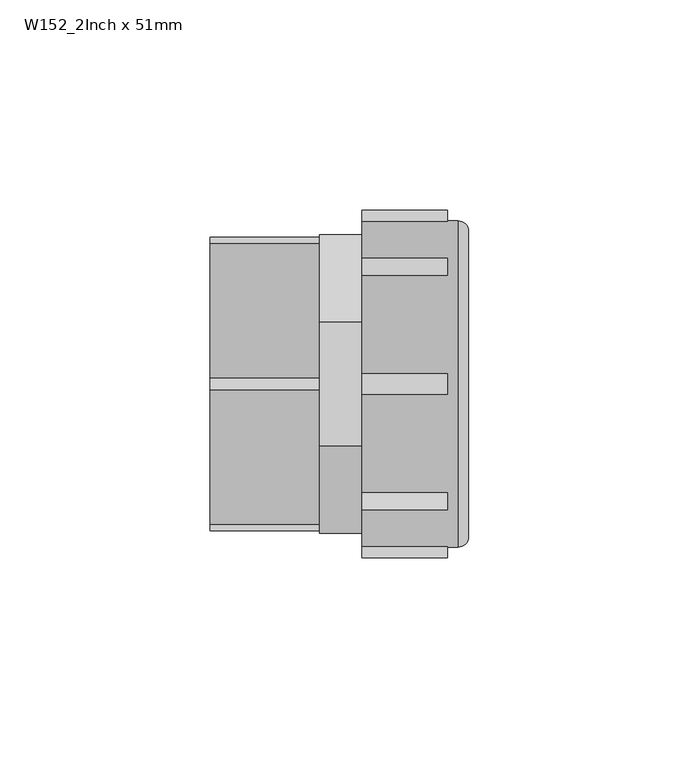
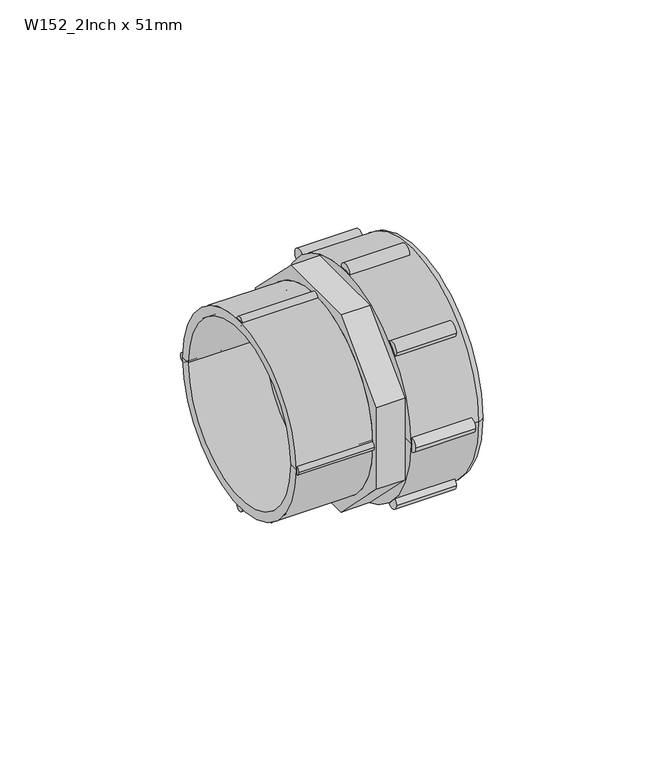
"""IFC4 building model written with IfcOpenShell, lengths in millimetres: pipe fitting geometry, Durapipe_PipeFitting_VulcatheneMechanical_FIToPipeCoupler_W15 : W152_2Inch x 51mm."""

from ifc_helpers import new_model, si_unit, point, frame, frame_2d, origin, place, context, project, spatial, polyline, circle_curve, ellipse_curve, trimmed, segment, composite_curve, outline, extrude, source, transform, mapped, element, save
from ifc_brep_helpers import plane_surface, cylinder_surface, revolved_surface, advanced_brep


def w152_2inch_x_51mm_c30cc51f(model_context):
    return source(origin(), model_context, "Body", "SolidModel", [
        advanced_brep(
        [(26.85, 22.839549, -22.839549), (26.85, 21.2839141, -21.2839141), (26.85, -21.2839141, 21.2839141), (26.85, -22.839549, 22.839549), (21.25, 22.3445743, -22.3445743), (21.25, -22.3445743, 22.3445743), (19.85, 21.9203102, -21.9203102), (21.25, 21.9203102, -21.9203102), (21.25, -21.9203102, 21.9203102), (19.85, -21.9203102, 21.9203102), (19.85, -20.9303607, 20.9303607), (19.85, 20.9303607, -20.9303607), (22.15, -20.9303607, 20.9303607), (22.15, 20.9303607, -20.9303607), (22.15, -20.647518, 20.647518), (22.15, 20.647518, -20.647518), (24.35, 21.2839141, -21.2839141), (24.35, 20.647518, -20.647518), (24.35, -20.647518, 20.647518), (24.35, -21.2839141, 21.2839141)],
        [
            (0, 1),
            (1, 2, circle_curve(frame((26.85, 0.0, 0.0), z_axis=(-1.0, 0.0, 0.0), x_axis=(0.0, -0.7071067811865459, 0.7071067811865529)), 30.1)),
            (2, 3),
            (3, 0, circle_curve(frame((26.85, 0.0, 0.0), z_axis=(1.0, 0.0, 0.0), x_axis=(0.0, -0.7071067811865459, 0.7071067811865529)), 32.3)),
            (2, 1, circle_curve(frame((26.85, 0.0, 0.0), z_axis=(-1.0, 0.0, 0.0), x_axis=(0.0, -0.7071067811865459, 0.7071067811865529)), 30.1)),
            (0, 3, circle_curve(frame((26.85, 0.0, 0.0), z_axis=(1.0, 0.0, 0.0), x_axis=(0.0, -0.7071067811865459, 0.7071067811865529)), 32.3)),
            (4, 0),
            (3, 5),
            (5, 4, circle_curve(frame((21.25, 0.0, 0.0), z_axis=(1.0, 0.0, 0.0), x_axis=(0.0, -0.7071067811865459, 0.7071067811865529)), 31.6)),
            (4, 5, circle_curve(frame((21.25, 0.0, 0.0), z_axis=(1.0, 0.0, 0.0), x_axis=(0.0, -0.7071067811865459, 0.7071067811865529)), 31.6)),
            (6, 7),
            (7, 8, circle_curve(frame((21.25, 0.0, 0.0), z_axis=(-1.0, 0.0, 0.0), x_axis=(0.0, -0.7071067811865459, 0.7071067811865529)), 31.0)),
            (8, 9),
            (9, 6, circle_curve(frame((19.85, 0.0, 0.0), z_axis=(1.0, 0.0, 0.0), x_axis=(0.0, -0.7071067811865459, 0.7071067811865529)), 31.0)),
            (8, 7, circle_curve(frame((21.25, 0.0, 0.0), z_axis=(-1.0, 0.0, 0.0), x_axis=(0.0, -0.7071067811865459, 0.7071067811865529)), 31.0)),
            (6, 9, circle_curve(frame((19.85, 0.0, 0.0), z_axis=(1.0, 0.0, 0.0), x_axis=(0.0, -0.7071067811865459, 0.7071067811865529)), 31.0)),
            (9, 10),
            (10, 11, circle_curve(frame((19.85, 0.0, 0.0), z_axis=(1.0, 0.0, 0.0), x_axis=(0.0, -0.7071067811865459, 0.7071067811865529)), 29.6)),
            (11, 6),
            (11, 10, circle_curve(frame((19.85, 0.0, 0.0), z_axis=(1.0, 0.0, 0.0), x_axis=(0.0, -0.7071067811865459, 0.7071067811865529)), 29.6)),
            (10, 12),
            (12, 13, circle_curve(frame((22.15, 0.0, 0.0), z_axis=(1.0, 0.0, 0.0), x_axis=(0.0, -0.7071067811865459, 0.7071067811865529)), 29.6)),
            (13, 11),
            (13, 12, circle_curve(frame((22.15, 0.0, 0.0), z_axis=(1.0, 0.0, 0.0), x_axis=(0.0, -0.7071067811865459, 0.7071067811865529)), 29.6)),
            (12, 14),
            (14, 15, circle_curve(frame((22.15, 0.0, 0.0), z_axis=(1.0, 0.0, 0.0), x_axis=(0.0, -0.7071067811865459, 0.7071067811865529)), 29.2)),
            (15, 13),
            (15, 14, circle_curve(frame((22.15, 0.0, 0.0), z_axis=(1.0, 0.0, 0.0), x_axis=(0.0, -0.7071067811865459, 0.7071067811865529)), 29.2)),
            (16, 17),
            (17, 18, circle_curve(frame((24.35, 0.0, 0.0), z_axis=(-1.0, 0.0, 0.0), x_axis=(0.0, -0.7071067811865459, 0.7071067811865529)), 29.2)),
            (18, 19),
            (19, 16, circle_curve(frame((24.35, 0.0, 0.0), z_axis=(1.0, 0.0, 0.0), x_axis=(0.0, -0.7071067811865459, 0.7071067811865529)), 30.1)),
            (18, 17, circle_curve(frame((24.35, 0.0, 0.0), z_axis=(-1.0, 0.0, 0.0), x_axis=(0.0, -0.7071067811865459, 0.7071067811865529)), 29.2)),
            (16, 19, circle_curve(frame((24.35, 0.0, 0.0), z_axis=(1.0, 0.0, 0.0), x_axis=(0.0, -0.7071067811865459, 0.7071067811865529)), 30.1)),
            (1, 16),
            (19, 2),
            (14, 18),
            (17, 15),
            (5, 8),
            (7, 4),
        ],
        [
            plane_surface(frame((26.85, 0.0, 0.0), z_axis=(1.0, 0.0, 0.0), x_axis=(0.0, -0.707106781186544, 0.707106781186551))),
            revolved_surface(polyline([(26.85, -22.839549, 22.839549), (21.25, -22.3445743, 22.3445743)]), (31.85, 0.0, 0.0), (-1.0000000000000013, 0.0, 0.0)),
            cylinder_surface(frame((17.7793443, 0.0, 0.0), z_axis=(-1.0000000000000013, 0.0, 0.0), x_axis=(0.0, -0.7071067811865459, 0.7071067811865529)), 31.0),
            plane_surface(frame((19.85, 0.0, 0.0), z_axis=(-1.0, 0.0, 0.0), x_axis=(0.0, -0.707106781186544, 0.707106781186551))),
            revolved_surface(polyline([(19.85000000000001, -20.93036072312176, 20.930360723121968), (22.150000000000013, -20.93036072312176, 20.930360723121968)]), (16.357009, 0.0, 0.0), (-1.0000000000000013, 0.0, 0.0)),
            plane_surface(frame((22.15, 0.0, 0.0), z_axis=(-1.0, 0.0, 0.0), x_axis=(0.0, -0.707106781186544, 0.707106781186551))),
            plane_surface(frame((24.35, 0.0, 0.0), z_axis=(1.0, 0.0, 0.0), x_axis=(0.0, -0.707106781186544, 0.707106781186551))),
            revolved_surface(polyline([(24.34999999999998, -21.28391411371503, 21.283914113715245), (26.849999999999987, -21.28391411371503, 21.283914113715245)]), (31.85, 0.0, 0.0), (-1.0000000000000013, 0.0, 0.0)),
            revolved_surface(polyline([(22.149999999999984, -20.64751801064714, 20.647518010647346), (24.34999999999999, -20.64751801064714, 20.647518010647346)]), (28.4161924, 0.0, 0.0), (-1.0000000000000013, 0.0, 0.0)),
            plane_surface(frame((21.25, 0.0, 0.0), z_axis=(-1.0, 0.0, 0.0), x_axis=(0.0, -0.707106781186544, 0.707106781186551))),
        ],
        [
            (0, [[1, 2, 3, 4]]),
            (0, [[5, -1, 6, -3]]),
            (1, [[7, -4, 8, 9]]),
            (1, [[-8, -6, -7, 10]]),
            (2, [[11, 12, 13, 14]]),
            (2, [[15, -11, 16, -13]]),
            (3, [[17, 18, 19, -14]]),
            (3, [[-19, 20, -17, -16]]),
            (4, [[-18, 21, 22, 23]]),
            (4, [[24, -21, -20, -23]]),
            (5, [[25, 26, 27, -22]]),
            (5, [[-27, 28, -25, -24]]),
            (6, [[29, 30, 31, 32]]),
            (6, [[-31, 33, -29, 34]]),
            (7, [[35, -32, 36, -2]]),
            (7, [[-36, -34, -35, -5]]),
            (8, [[-26, 37, -30, 38]]),
            (8, [[-33, -37, -28, -38]]),
            (9, [[39, -12, 40, -9]]),
            (9, [[-40, -15, -39, -10]]),
        ],
    ),
        advanced_brep(
        [(5.35, 38.8, 0.0), (28.25, 38.8, 0.0), (28.25, -38.8, 0.0), (5.35, -38.8, 0.0), (5.35, 33.0, 0.0), (5.35, -33.0, 0.0), (30.75, 36.3, 0.0), (30.75, 31.0, 0.0), (30.75, -31.0, 0.0), (30.75, -36.3, 0.0), (26.85, 33.0, 0.0), (26.85, -33.0, 0.0), (26.85, 31.0, 0.0), (26.85, -31.0, 0.0)],
        [
            (0, 1),
            (1, 2, circle_curve(frame((28.25, 0.0, 0.0), z_axis=(-1.0, 0.0, 0.0), x_axis=(0.0, -1.0000000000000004, 0.0)), 38.8)),
            (2, 3),
            (3, 0, circle_curve(frame((5.35, 0.0, 0.0), z_axis=(1.0, 0.0, 0.0), x_axis=(0.0, -1.0000000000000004, 0.0)), 38.8)),
            (2, 1, circle_curve(frame((28.25, 0.0, 0.0), z_axis=(-1.0, 0.0, 0.0), x_axis=(0.0, -1.0000000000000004, 0.0)), 38.8)),
            (0, 3, circle_curve(frame((5.35, 0.0, 0.0), z_axis=(1.0, 0.0, 0.0), x_axis=(0.0, -1.0000000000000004, 0.0)), 38.8)),
            (4, 0),
            (3, 5),
            (5, 4, circle_curve(frame((5.35, 0.0, 0.0), z_axis=(1.0, 0.0, 0.0), x_axis=(0.0, -1.0000000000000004, 0.0)), 33.0)),
            (4, 5, circle_curve(frame((5.35, 0.0, 0.0), z_axis=(1.0, 0.0, 0.0), x_axis=(0.0, -1.0000000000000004, 0.0)), 33.0)),
            (6, 7),
            (7, 8, circle_curve(frame((30.75, 0.0, 0.0), z_axis=(-1.0, 0.0, 0.0), x_axis=(0.0, -1.0000000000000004, 0.0)), 31.0)),
            (8, 9),
            (9, 6, circle_curve(frame((30.75, 0.0, 0.0), z_axis=(1.0, 0.0, 0.0), x_axis=(0.0, -1.0000000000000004, 0.0)), 36.3)),
            (8, 7, circle_curve(frame((30.75, 0.0, 0.0), z_axis=(-1.0, 0.0, 0.0), x_axis=(0.0, -1.0000000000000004, 0.0)), 31.0)),
            (6, 9, circle_curve(frame((30.75, 0.0, 0.0), z_axis=(1.0, 0.0, 0.0), x_axis=(0.0, -1.0000000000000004, 0.0)), 36.3)),
            (1, 6, circle_curve(frame((28.25, 36.3, 0.0), z_axis=(0.0, 0.0, -1.0000000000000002), x_axis=(1.0000000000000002, 0.0, 0.0)), 2.5)),
            (9, 2, circle_curve(frame((28.25, -36.3, 0.0), z_axis=(0.0, 0.0, -1.0000000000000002), x_axis=(1.0000000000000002, 0.0, 0.0)), 2.5)),
            (10, 4),
            (5, 11),
            (11, 10, circle_curve(frame((26.85, 0.0, 0.0), z_axis=(1.0, 0.0, 0.0), x_axis=(0.0, -1.0000000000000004, 0.0)), 33.0)),
            (10, 11, circle_curve(frame((26.85, 0.0, 0.0), z_axis=(1.0, 0.0, 0.0), x_axis=(0.0, -1.0000000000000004, 0.0)), 33.0)),
            (12, 10),
            (11, 13),
            (13, 12, circle_curve(frame((26.85, 0.0, 0.0), z_axis=(1.0, 0.0, 0.0), x_axis=(0.0, -1.0000000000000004, 0.0)), 31.0)),
            (12, 13, circle_curve(frame((26.85, 0.0, 0.0), z_axis=(1.0, 0.0, 0.0), x_axis=(0.0, -1.0000000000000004, 0.0)), 31.0)),
            (7, 12),
            (13, 8),
        ],
        [
            cylinder_surface(frame((1591.5518184, 0.0, 0.0), z_axis=(-1.0000000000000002, 0.0, 0.0), x_axis=(0.0, -1.0000000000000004, 0.0)), 38.8),
            plane_surface(frame((5.35, 0.0, 0.0), z_axis=(-1.0, 0.0, 0.0), x_axis=(0.0, -1.0, 0.0))),
            plane_surface(frame((30.75, 0.0, 0.0), z_axis=(1.0, 0.0, 0.0), x_axis=(0.0, -1.0, 0.0))),
            revolved_surface(trimmed(ellipse_curve(frame((28.25, -36.3, 0.0), z_axis=(0.0, 0.0, -1.0000000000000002), x_axis=(1.0000000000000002, 0.0, 0.0)), 2.5, 2.5), [point((30.75, -36.3, 0.0))], [point((28.25, -38.8, 0.0))], True, "CARTESIAN"), (1591.5518184, 0.0, 0.0), (-1.0000000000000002, 0.0, 0.0)),
            revolved_surface(polyline([(5.3499999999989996, -33.000000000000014, 0.0), (26.849999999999, -33.000000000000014, 0.0)]), (1591.5518184, 0.0, 0.0), (-1.0000000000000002, 0.0, 0.0)),
            plane_surface(frame((26.85, 0.0, 0.0), z_axis=(-1.0, 0.0, 0.0), x_axis=(0.0, -1.0, 0.0))),
            revolved_surface(polyline([(26.849999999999, -31.000000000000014, 0.0), (30.74999999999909, -31.000000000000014, 0.0)]), (1591.5518184, 0.0, 0.0), (-1.0000000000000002, 0.0, 0.0)),
        ],
        [
            (0, [[1, 2, 3, 4]]),
            (0, [[-3, 5, -1, 6]]),
            (1, [[7, -4, 8, 9]]),
            (1, [[-8, -6, -7, 10]]),
            (2, [[11, 12, 13, 14]]),
            (2, [[-13, 15, -11, 16]]),
            (3, [[17, -14, 18, -2]]),
            (3, [[-18, -16, -17, -5]]),
            (4, [[19, -9, 20, 21]]),
            (4, [[-20, -10, -19, 22]]),
            (5, [[23, -21, 24, 25]]),
            (5, [[-24, -22, -23, 26]]),
            (6, [[27, -25, 28, -12]]),
            (6, [[-28, -26, -27, -15]]),
        ],
    ),
        extrude(outline(composite_curve([segment(trimmed(circle_curve(frame_2d((0.0, 38.8)), 2.5), [point((2.5, 38.8))], [point((-2.5, 38.8))], False, "CARTESIAN"), True, "CONTINUOUS"), segment(trimmed(circle_curve(frame_2d((0.0, 38.8)), 2.5), [point((-2.5, 38.8))], [point((2.5, 38.8))], False, "CARTESIAN"), True, "CONTINUOUS")], self_intersect=False)), frame((5.35, 0.0, 0.0), z_axis=(1.0, 0.0, 0.0), x_axis=(0.0, 1.0, 0.0)), (0.0, 0.0, 1.0), 20.4),
        extrude(outline(composite_curve([segment(trimmed(circle_curve(frame_2d((-27.4357431, 27.4357431)), 2.5), [point((-24.9357431, 27.4357431))], [point((-29.9357431, 27.4357431))], False, "CARTESIAN"), True, "CONTINUOUS"), segment(trimmed(circle_curve(frame_2d((-27.4357431, 27.4357431)), 2.5), [point((-29.9357431, 27.4357431))], [point((-24.9357431, 27.4357431))], False, "CARTESIAN"), True, "CONTINUOUS")], self_intersect=False)), frame((5.35, 0.0, 0.0), z_axis=(1.0, 0.0, 0.0), x_axis=(0.0, 1.0, 0.0)), (0.0, 0.0, 1.0), 20.4),
        extrude(outline(composite_curve([segment(trimmed(circle_curve(frame_2d((-38.8, 0.0)), 2.5), [point((-36.3, 0.0))], [point((-41.3, 0.0))], False, "CARTESIAN"), True, "CONTINUOUS"), segment(trimmed(circle_curve(frame_2d((-38.8, 0.0)), 2.5), [point((-41.3, 0.0))], [point((-36.3, 0.0))], False, "CARTESIAN"), True, "CONTINUOUS")], self_intersect=False)), frame((5.35, 0.0, 0.0), z_axis=(1.0, 0.0, 0.0), x_axis=(0.0, 1.0, 0.0)), (0.0, 0.0, 1.0), 20.4),
        extrude(outline(composite_curve([segment(trimmed(circle_curve(frame_2d((-27.4357431, -27.4357431)), 2.5), [point((-24.9357431, -27.4357431))], [point((-29.9357431, -27.4357431))], False, "CARTESIAN"), True, "CONTINUOUS"), segment(trimmed(circle_curve(frame_2d((-27.4357431, -27.4357431)), 2.5), [point((-29.9357431, -27.4357431))], [point((-24.9357431, -27.4357431))], False, "CARTESIAN"), True, "CONTINUOUS")], self_intersect=False)), frame((5.35, 0.0, 0.0), z_axis=(1.0, 0.0, 0.0), x_axis=(0.0, 1.0, 0.0)), (0.0, 0.0, 1.0), 20.4),
        extrude(outline(composite_curve([segment(trimmed(circle_curve(frame_2d((0.0, -38.8)), 2.5), [point((2.5, -38.8))], [point((-2.5, -38.8))], False, "CARTESIAN"), True, "CONTINUOUS"), segment(trimmed(circle_curve(frame_2d((0.0, -38.8)), 2.5), [point((-2.5, -38.8))], [point((2.5, -38.8))], False, "CARTESIAN"), True, "CONTINUOUS")], self_intersect=False)), frame((5.35, 0.0, 0.0), z_axis=(1.0, 0.0, 0.0), x_axis=(0.0, 1.0, 0.0)), (0.0, 0.0, 1.0), 20.4),
        extrude(outline(composite_curve([segment(trimmed(circle_curve(frame_2d((27.4357431, -27.4357431)), 2.5), [point((29.9357431, -27.4357431))], [point((24.9357431, -27.4357431))], False, "CARTESIAN"), True, "CONTINUOUS"), segment(trimmed(circle_curve(frame_2d((27.4357431, -27.4357431)), 2.5), [point((24.9357431, -27.4357431))], [point((29.9357431, -27.4357431))], False, "CARTESIAN"), True, "CONTINUOUS")], self_intersect=False)), frame((5.35, 0.0, 0.0), z_axis=(1.0, 0.0, 0.0), x_axis=(0.0, 1.0, 0.0)), (0.0, 0.0, 1.0), 20.4),
        extrude(outline(composite_curve([segment(trimmed(circle_curve(frame_2d((38.8, 0.0)), 2.5), [point((41.3, 0.0))], [point((36.3, 0.0))], False, "CARTESIAN"), True, "CONTINUOUS"), segment(trimmed(circle_curve(frame_2d((38.8, 0.0)), 2.5), [point((36.3, 0.0))], [point((41.3, 0.0))], False, "CARTESIAN"), True, "CONTINUOUS")], self_intersect=False)), frame((5.35, 0.0, 0.0), z_axis=(1.0, 0.0, 0.0), x_axis=(0.0, 1.0, 0.0)), (0.0, 0.0, 1.0), 20.4),
        extrude(outline(composite_curve([segment(trimmed(circle_curve(frame_2d((27.4357431, 27.4357431)), 2.5), [point((29.9357431, 27.4357431))], [point((24.9357431, 27.4357431))], False, "CARTESIAN"), True, "CONTINUOUS"), segment(trimmed(circle_curve(frame_2d((27.4357431, 27.4357431)), 2.5), [point((24.9357431, 27.4357431))], [point((29.9357431, 27.4357431))], False, "CARTESIAN"), True, "CONTINUOUS")], self_intersect=False)), frame((5.35, 0.0, 0.0), z_axis=(1.0, 0.0, 0.0), x_axis=(0.0, 1.0, 0.0)), (0.0, 0.0, 1.0), 20.4),
        advanced_brep(
        [(-30.75, -33.45, 0.0), (-30.75, 33.45, 0.0), (-4.75, 33.45, 0.0), (-4.75, -33.45, 0.0), (-30.75, -30.25, 0.0), (-30.75, 30.25, 0.0), (-4.75, -30.25, 0.0), (-4.75, 30.25, 0.0), (5.25, 14.7045815, 35.5), (5.25, -14.7045815, 35.5), (5.25, -35.5, 14.7045815), (5.25, -35.5, -14.7045815), (5.25, -14.7045815, -35.5), (5.25, 14.7045815, -35.5), (5.25, 35.5, -14.7045815), (5.25, 35.5, 14.7045815), (5.25, -26.2, 0.0), (5.25, 26.2, 0.0), (-4.75, -26.2, 0.0), (-4.75, 26.2, 0.0), (-4.75, 14.7045815, 35.5), (-4.75, 35.5, 14.7045815), (-4.75, 35.5, -14.7045815), (-4.75, 14.7045815, -35.5), (-4.75, -14.7045815, -35.5), (-4.75, -35.5, -14.7045815), (-4.75, -35.5, 14.7045815), (-4.75, -14.7045815, 35.5)],
        [
            (0, 1, circle_curve(frame((-30.75, 0.0, 0.0), z_axis=(1.0, 0.0, 0.0), x_axis=(0.0, 1.0, 0.0)), 33.45)),
            (1, 2),
            (2, 3, circle_curve(frame((-4.75, 0.0, 0.0), z_axis=(-1.0, 0.0, 0.0), x_axis=(0.0, 1.0, 0.0)), 33.45)),
            (3, 0),
            (1, 0, circle_curve(frame((-30.75, 0.0, 0.0), z_axis=(1.0, 0.0, 0.0), x_axis=(0.0, 1.0, 0.0)), 33.45)),
            (3, 2, circle_curve(frame((-4.75, 0.0, 0.0), z_axis=(-1.0, 0.0, 0.0), x_axis=(0.0, 1.0, 0.0)), 33.45)),
            (0, 4),
            (4, 5, circle_curve(frame((-30.75, 0.0, 0.0), z_axis=(1.0, 0.0, 0.0), x_axis=(0.0, 1.0, 0.0)), 30.25)),
            (5, 1),
            (5, 4, circle_curve(frame((-30.75, 0.0, 0.0), z_axis=(1.0, 0.0, 0.0), x_axis=(0.0, 1.0, 0.0)), 30.25)),
            (4, 6),
            (6, 7, circle_curve(frame((-4.75, 0.0, 0.0), z_axis=(1.0, 0.0, 0.0), x_axis=(0.0, 1.0, 0.0)), 30.25)),
            (7, 5),
            (7, 6, circle_curve(frame((-4.75, 0.0, 0.0), z_axis=(1.0, 0.0, 0.0), x_axis=(0.0, 1.0, 0.0)), 30.25)),
            (8, 9),
            (9, 10),
            (10, 11),
            (11, 12),
            (12, 13),
            (13, 14),
            (14, 15),
            (15, 8),
            (16, 17, circle_curve(frame((5.25, 0.0, 0.0), z_axis=(-1.0, 0.0, 0.0), x_axis=(0.0, 1.0, 0.0)), 26.2)),
            (17, 16, circle_curve(frame((5.25, 0.0, 0.0), z_axis=(-1.0, 0.0, 0.0), x_axis=(0.0, 1.0, 0.0)), 26.2)),
            (18, 19, circle_curve(frame((-4.75, 0.0, 0.0), z_axis=(1.0, 0.0, 0.0), x_axis=(0.0, 1.0, 0.0)), 26.2)),
            (19, 18, circle_curve(frame((-4.75, 0.0, 0.0), z_axis=(1.0, 0.0, 0.0), x_axis=(0.0, 1.0, 0.0)), 26.2)),
            (20, 21),
            (21, 22),
            (22, 23),
            (23, 24),
            (24, 25),
            (25, 26),
            (26, 27),
            (27, 20),
            (8, 20),
            (27, 9),
            (26, 10),
            (25, 11),
            (24, 12),
            (23, 13),
            (22, 14),
            (21, 15),
            (16, 18),
            (19, 17),
        ],
        [
            cylinder_surface(frame((-35.75, 0.0, 0.0), z_axis=(-1.0, 0.0, 0.0), x_axis=(0.0, 1.0, 0.0)), 33.45),
            plane_surface(frame((-30.75, 0.0, 0.0), z_axis=(-1.0, 0.0, 0.0), x_axis=(0.0, 1.0, 0.0))),
            revolved_surface(polyline([(-30.75, 30.25, 0.0), (-4.75, 30.25, 0.0)]), (-35.75, 0.0, 0.0), (-1.0, 0.0, 0.0)),
            plane_surface(frame((5.25, -14.7045815, 35.5), z_axis=(1.0, 0.0, 0.0), x_axis=(0.0, -1.0, 0.0))),
            plane_surface(frame((-4.75, -14.7045815, 35.5), z_axis=(-1.0, 0.0, 0.0), x_axis=(0.0, 1.0, 0.0))),
            plane_surface(frame((5.25, 14.7045815, 35.5), z_axis=(0.0, 0.0, 1.0), x_axis=(-1.0, 0.0, 0.0))),
            plane_surface(frame((5.25, -14.7045815, 35.5), z_axis=(0.0, -0.7071067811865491, 0.7071067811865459), x_axis=(-1.0, 0.0, 0.0))),
            plane_surface(frame((5.25, -35.5, 14.7045815), z_axis=(0.0, -1.0, 0.0), x_axis=(-1.0, 0.0, 0.0))),
            plane_surface(frame((5.25, -35.5, -14.7045815), z_axis=(0.0, -0.7071067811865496, -0.7071067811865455), x_axis=(-1.0, 0.0, 0.0))),
            plane_surface(frame((5.25, -14.7045815, -35.5), z_axis=(0.0, 0.0, -1.0), x_axis=(-1.0, 0.0, 0.0))),
            plane_surface(frame((5.25, 14.7045815, -35.5), z_axis=(0.0, 0.7071067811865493, -0.7071067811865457), x_axis=(-1.0, 0.0, 0.0))),
            plane_surface(frame((5.25, 35.5, -14.7045815), z_axis=(0.0, 1.0, 0.0), x_axis=(-1.0, 0.0, 0.0))),
            plane_surface(frame((5.25, 35.5, 14.7045815), z_axis=(0.0, 0.7071067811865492, 0.7071067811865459), x_axis=(-1.0, 0.0, 0.0))),
            revolved_surface(polyline([(-4.75, 26.2, 0.0), (5.25, 26.2, 0.0)]), (0.0, 0.0, 0.0), (-1.0, 0.0, 0.0)),
        ],
        [
            (0, [[1, 2, 3, 4]]),
            (0, [[-2, 5, -4, 6]]),
            (1, [[-1, 7, 8, 9]]),
            (1, [[-5, -9, 10, -7]]),
            (2, [[-8, 11, 12, 13]]),
            (2, [[-10, -13, 14, -11]]),
            (3, [[15, 16, 17, 18, 19, 20, 21, 22], [23, 24]]),
            (4, [[-12, -14], [25, 26]]),
            (4, [[27, 28, 29, 30, 31, 32, 33, 34], [-3, -6]]),
            (5, [[-15, 35, -34, 36]]),
            (6, [[-16, -36, -33, 37]]),
            (7, [[-17, -37, -32, 38]]),
            (8, [[-18, -38, -31, 39]]),
            (9, [[-19, -39, -30, 40]]),
            (10, [[-20, -40, -29, 41]]),
            (11, [[-21, -41, -28, 42]]),
            (12, [[-22, -42, -27, -35]]),
            (13, [[-23, 43, -26, 44]]),
            (13, [[-24, -44, -25, -43]]),
        ],
    ),
        extrude(outline(composite_curve([segment(trimmed(circle_curve(frame_2d((0.0, 33.4)), 1.5), [point((-1.5, 33.4))], [point((1.5, 33.4))], False, "CARTESIAN"), True, "CONTINUOUS"), segment(trimmed(circle_curve(frame_2d((0.0, 33.4)), 1.5), [point((1.5, 33.4))], [point((-1.5, 33.4))], False, "CARTESIAN"), True, "CONTINUOUS")], self_intersect=False)), frame((-30.75, 0.0, 0.0), z_axis=(1.0, 0.0, 0.0), x_axis=(0.0, 1.0, 0.0)), (0.0, 0.0, 1.0), 26.0),
        extrude(outline(composite_curve([segment(trimmed(circle_curve(frame_2d((33.4, 0.0)), 1.5), [point((31.9, 0.0))], [point((34.9, 0.0))], False, "CARTESIAN"), True, "CONTINUOUS"), segment(trimmed(circle_curve(frame_2d((33.4, 0.0)), 1.5), [point((34.9, 0.0))], [point((31.9, 0.0))], False, "CARTESIAN"), True, "CONTINUOUS")], self_intersect=False)), frame((-30.75, 0.0, 0.0), z_axis=(1.0, 0.0, 0.0), x_axis=(0.0, 1.0, 0.0)), (0.0, 0.0, 1.0), 26.0),
        extrude(outline(composite_curve([segment(trimmed(circle_curve(frame_2d((-33.4, 0.0)), 1.5), [point((-34.9, 0.0))], [point((-31.9, 0.0))], False, "CARTESIAN"), True, "CONTINUOUS"), segment(trimmed(circle_curve(frame_2d((-33.4, 0.0)), 1.5), [point((-31.9, 0.0))], [point((-34.9, 0.0))], False, "CARTESIAN"), True, "CONTINUOUS")], self_intersect=False)), frame((-30.75, 0.0, 0.0), z_axis=(1.0, 0.0, 0.0), x_axis=(0.0, 1.0, 0.0)), (0.0, 0.0, 1.0), 26.0),
        extrude(outline(composite_curve([segment(trimmed(circle_curve(frame_2d((0.0, -33.4)), 1.5), [point((-1.5, -33.4))], [point((1.5, -33.4))], False, "CARTESIAN"), True, "CONTINUOUS"), segment(trimmed(circle_curve(frame_2d((0.0, -33.4)), 1.5), [point((1.5, -33.4))], [point((-1.5, -33.4))], False, "CARTESIAN"), True, "CONTINUOUS")], self_intersect=False)), frame((-30.75, 0.0, 0.0), z_axis=(1.0, 0.0, 0.0), x_axis=(0.0, 1.0, 0.0)), (0.0, 0.0, 1.0), 26.0),
        advanced_brep(
        [(-4.75, -26.2, 0.0), (-4.75, 26.2, 0.0), (-4.75, 33.4, 0.0), (-4.75, -33.4, 0.0), (0.25, -26.2, 0.0), (0.25, 26.2, 0.0), (0.25, -30.25, 0.0), (0.25, 30.25, 0.0), (27.25, -30.25, 0.0), (27.25, 30.25, 0.0), (27.25, -33.4, 0.0), (27.25, 33.4, 0.0)],
        [
            (0, 1, circle_curve(frame((-4.75, 0.0, 0.0), z_axis=(1.0, 0.0, 0.0), x_axis=(0.0, 1.0, 0.0)), 26.2)),
            (1, 2),
            (2, 3, circle_curve(frame((-4.75, 0.0, 0.0), z_axis=(-1.0, 0.0, 0.0), x_axis=(0.0, 1.0, 0.0)), 33.4)),
            (3, 0),
            (1, 0, circle_curve(frame((-4.75, 0.0, 0.0), z_axis=(1.0, 0.0, 0.0), x_axis=(0.0, 1.0, 0.0)), 26.2)),
            (3, 2, circle_curve(frame((-4.75, 0.0, 0.0), z_axis=(-1.0, 0.0, 0.0), x_axis=(0.0, 1.0, 0.0)), 33.4)),
            (4, 5, circle_curve(frame((0.25, 0.0, 0.0), z_axis=(1.0, 0.0, 0.0), x_axis=(0.0, 1.0, 0.0)), 26.2)),
            (5, 1),
            (0, 4),
            (5, 4, circle_curve(frame((0.25, 0.0, 0.0), z_axis=(1.0, 0.0, 0.0), x_axis=(0.0, 1.0, 0.0)), 26.2)),
            (6, 7, circle_curve(frame((0.25, 0.0, 0.0), z_axis=(1.0, 0.0, 0.0), x_axis=(0.0, 1.0, 0.0)), 30.25)),
            (7, 5),
            (4, 6),
            (7, 6, circle_curve(frame((0.25, 0.0, 0.0), z_axis=(1.0, 0.0, 0.0), x_axis=(0.0, 1.0, 0.0)), 30.25)),
            (8, 9, circle_curve(frame((27.25, 0.0, 0.0), z_axis=(1.0, 0.0, 0.0), x_axis=(0.0, 1.0, 0.0)), 30.25)),
            (9, 7),
            (6, 8),
            (9, 8, circle_curve(frame((27.25, 0.0, 0.0), z_axis=(1.0, 0.0, 0.0), x_axis=(0.0, 1.0, 0.0)), 30.25)),
            (10, 11, circle_curve(frame((27.25, 0.0, 0.0), z_axis=(1.0, 0.0, 0.0), x_axis=(0.0, 1.0, 0.0)), 33.4)),
            (11, 9),
            (8, 10),
            (11, 10, circle_curve(frame((27.25, 0.0, 0.0), z_axis=(1.0, 0.0, 0.0), x_axis=(0.0, 1.0, 0.0)), 33.4)),
            (2, 11),
            (10, 3),
        ],
        [
            plane_surface(frame((-4.75, 0.0, 0.0), z_axis=(-1.0, 0.0, 0.0), x_axis=(0.0, 1.0, 0.0))),
            revolved_surface(polyline([(-4.75, 26.2, 0.0), (0.25, 26.2, 0.0)]), (32.9340423, 0.0, 0.0), (-1.0, 0.0, 0.0)),
            plane_surface(frame((0.25, 0.0, 0.0), z_axis=(1.0, 0.0, 0.0), x_axis=(0.0, 1.0, 0.0))),
            revolved_surface(polyline([(0.25, 30.25, 0.0), (27.25, 30.25, 0.0)]), (32.9340423, 0.0, 0.0), (-1.0, 0.0, 0.0)),
            plane_surface(frame((27.25, 0.0, 0.0), z_axis=(1.0, 0.0, 0.0), x_axis=(0.0, 1.0, 0.0))),
            cylinder_surface(frame((32.9340423, 0.0, 0.0), z_axis=(-1.0, 0.0, 0.0), x_axis=(0.0, 1.0, 0.0)), 33.4),
        ],
        [
            (0, [[1, 2, 3, 4]]),
            (0, [[5, -4, 6, -2]]),
            (1, [[7, 8, -1, 9]]),
            (1, [[10, -9, -5, -8]]),
            (2, [[11, 12, -7, 13]]),
            (2, [[14, -13, -10, -12]]),
            (3, [[15, 16, -11, 17]]),
            (3, [[18, -17, -14, -16]]),
            (4, [[19, 20, -15, 21]]),
            (4, [[22, -21, -18, -20]]),
            (5, [[-3, 23, -19, 24]]),
            (5, [[-6, -24, -22, -23]]),
        ],
    ),
    ])


if __name__ == "__main__":
    model = new_model("IFC4")
    model_context = context("Model", 3, world=origin())
    ifc_project = project(units=[si_unit("LENGTHUNIT", "METRE", prefix="MILLI")], contexts=[model_context])
    site = spatial("IfcSite", under=ifc_project)
    building = spatial("IfcBuilding", under=site)
    placement = place(None, origin())
    w152_2inch_x_51mm_shape = w152_2inch_x_51mm_c30cc51f(model_context)
    element("IfcPipeFitting", 1, ObjectType="Durapipe_PipeFitting_VulcatheneMechanical_FIToPipeCoupler_W15 : W152_2Inch x 51mm", at=placement, inside=building, context=model_context, shape_type="MappedRepresentation", body=[
        mapped(w152_2inch_x_51mm_shape, transform((0.0, 0.0, 0.0), x_axis=(1.0, 0.0, 0.0), y_axis=(0.0, 1.0, 0.0), z_axis=(0.0, 0.0, 1.0))),
    ])
    save(model, "model.ifc")
